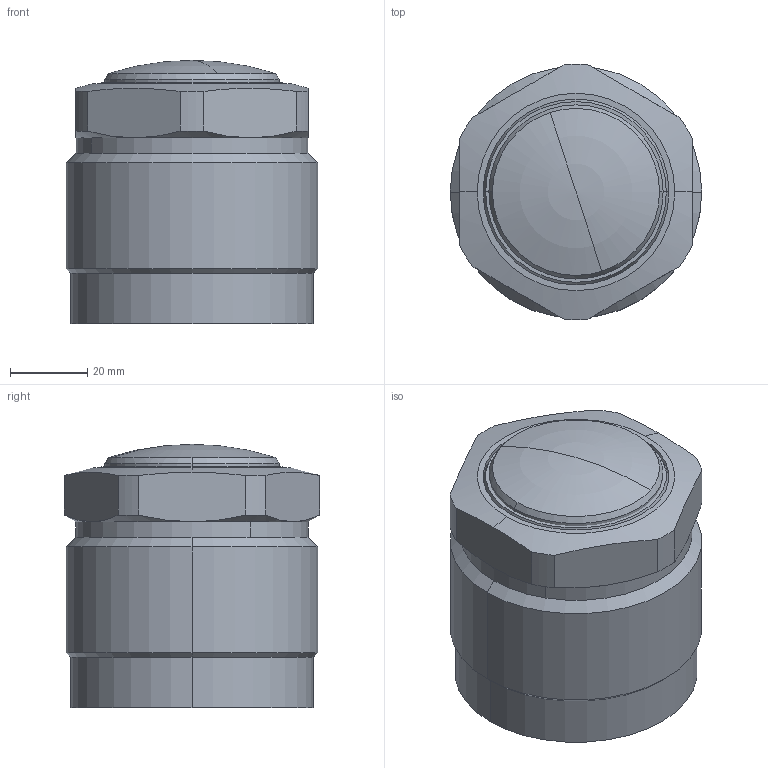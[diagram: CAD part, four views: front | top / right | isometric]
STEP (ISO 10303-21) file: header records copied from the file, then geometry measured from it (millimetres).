
FILE_DESCRIPTION((' '),'2;1');
FILE_NAME( 'TGP65-RS.x_t.stp', '2025-02-10T16:03:59', (' '), ('--- Datakit www.datakit.com---'), ' Datakit CrossCadWare V2024.1 Dec 21 2023', 'Mastercam 2025', ' ');
FILE_SCHEMA(('AUTOMOTIVE_DESIGN { 1 0 10303 214 1 1 1 1 }'));
Length unit declared in the file: millimetre
Products named in the file (1): TGP65-RS
Bounding box: 65 x 65.97 x 68 mm (x, y, z)
Volume: 222248.6 mm3; surface area: 26132 mm2
Topology: 2 solids, 2 shells, 66 faces, 166 edges, 103 vertices
Faces by surface type: cylinder 24, cone 24, plane 12, torus 6
Entity records: 2084 total; most frequent: CARTESIAN_POINT 470, DIRECTION 360, ORIENTED_EDGE 320, EDGE_CURVE 160, AXIS2_PLACEMENT_3D 153, VERTEX_POINT 103, CIRCLE 86, EDGE_LOOP 71
